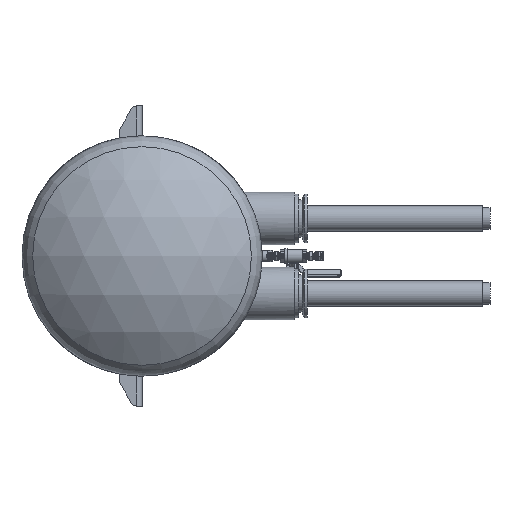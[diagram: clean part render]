
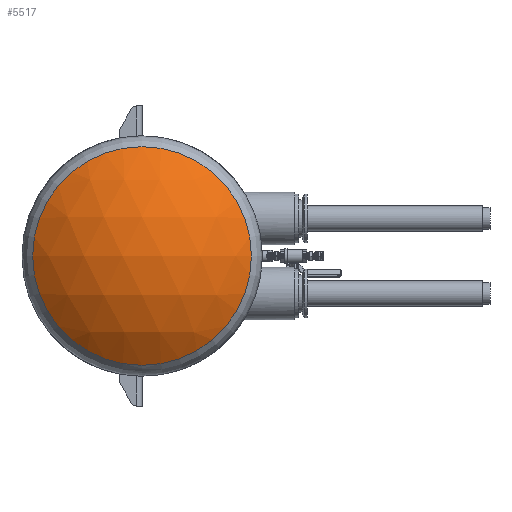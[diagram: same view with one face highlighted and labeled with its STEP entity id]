
A CAD part, left-side view. The second image highlights one B-rep face of the part: STEP entity #5517.
In plain terms, the highlighted spherical face has radius 287.38 mm.
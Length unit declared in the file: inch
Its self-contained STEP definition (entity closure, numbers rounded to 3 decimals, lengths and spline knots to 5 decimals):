
#5517 = ADVANCED_FACE ( 'NONE', ( #163873 ), #55107, .T. ) ;
#10692 = EDGE_LOOP ( 'NONE', ( #52004 ) ) ;
#36453 = VERTEX_POINT ( 'NONE', #89123 ) ;
#39200 = DIRECTION ( 'NONE',  ( 0., 0., -1. ) ) ;
#52004 = ORIENTED_EDGE ( 'NONE', *, *, #112523, .F. ) ;
#55107 = SPHERICAL_SURFACE ( 'NONE', #107812, 11.31418 ) ;
#71502 = DIRECTION ( 'NONE',  ( 0., 0., 1. ) ) ;
#77464 = CIRCLE ( 'NONE', #132571, 7.28836 ) ;
#89123 = CARTESIAN_POINT ( 'NONE',  ( -23.83975, 0., -7.28836 ) ) ;
#93981 = DIRECTION ( 'NONE',  ( 0., 1., 0. ) ) ;
#103175 = CARTESIAN_POINT ( 'NONE',  ( -23.83975, 0., 0. ) ) ;
#107812 = AXIS2_PLACEMENT_3D ( 'NONE', #150059, #71502, #93981 ) ;
#112523 = EDGE_CURVE ( 'NONE', #36453, #36453, #77464, .T. ) ;
#132571 = AXIS2_PLACEMENT_3D ( 'NONE', #103175, #157499, #39200 ) ;
#150059 = CARTESIAN_POINT ( 'NONE',  ( -15.18582, 0., 0. ) ) ;
#157499 = DIRECTION ( 'NONE',  ( 1., 0., 0. ) ) ;
#163873 = FACE_OUTER_BOUND ( 'NONE', #10692, .T. ) ;
